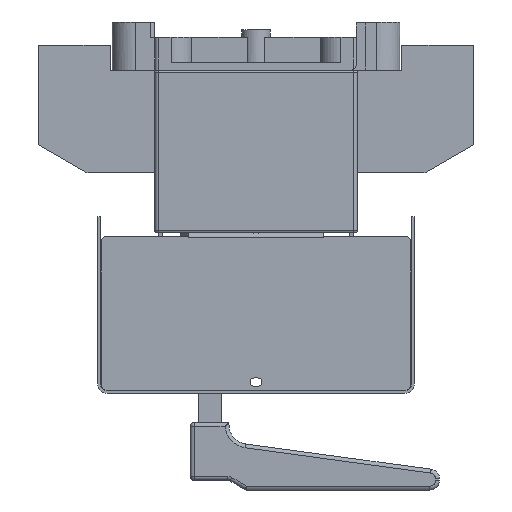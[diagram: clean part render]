
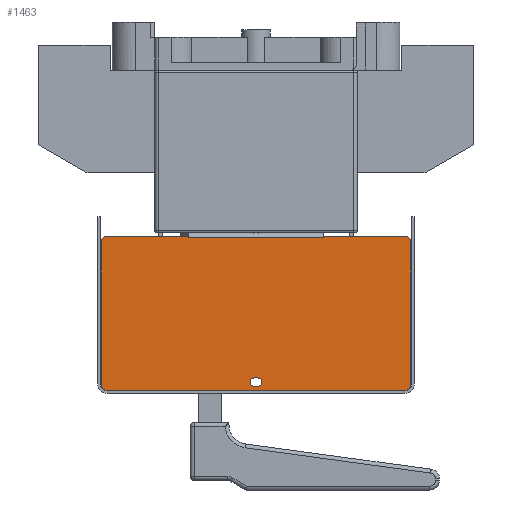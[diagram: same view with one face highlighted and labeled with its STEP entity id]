
A CAD part, left-side view. The second image highlights one B-rep face of the part: STEP entity #1463.
In plain terms, the highlighted planar face has unit normal (-1, 0, 0).
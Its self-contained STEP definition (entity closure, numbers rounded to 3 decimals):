
#662=FACE_BOUND('',#5008,.T.);
#663=FACE_BOUND('',#5009,.T.);
#1463=ADVANCED_FACE('',(#662,#663),#2595,.T.);
#2595=PLANE('',#26377);
#5008=EDGE_LOOP('',(#10214,#10215,#10216,#10217));
#5009=EDGE_LOOP('',(#10218,#10219,#10220,#10221,#10222,#10223,#10224,#10225,
#10226,#10227,#10228,#10229,#10230,#10231));
#6257=CIRCLE('',#26371,2.1);
#6258=CIRCLE('',#26372,2.1);
#6259=CIRCLE('',#26373,3.);
#6260=CIRCLE('',#26374,3.);
#6261=CIRCLE('',#26375,3.);
#6262=CIRCLE('',#26376,3.);
#10214=ORIENTED_EDGE('',*,*,#18092,.T.);
#10215=ORIENTED_EDGE('',*,*,#18093,.T.);
#10216=ORIENTED_EDGE('',*,*,#18094,.T.);
#10217=ORIENTED_EDGE('',*,*,#18095,.T.);
#10218=ORIENTED_EDGE('',*,*,#18071,.F.);
#10219=ORIENTED_EDGE('',*,*,#18069,.T.);
#10220=ORIENTED_EDGE('',*,*,#18056,.T.);
#10221=ORIENTED_EDGE('',*,*,#18073,.T.);
#10222=ORIENTED_EDGE('',*,*,#18076,.F.);
#10223=ORIENTED_EDGE('',*,*,#18096,.T.);
#10224=ORIENTED_EDGE('',*,*,#18097,.T.);
#10225=ORIENTED_EDGE('',*,*,#18098,.T.);
#10226=ORIENTED_EDGE('',*,*,#18099,.T.);
#10227=ORIENTED_EDGE('',*,*,#18100,.T.);
#10228=ORIENTED_EDGE('',*,*,#18101,.T.);
#10229=ORIENTED_EDGE('',*,*,#18102,.T.);
#10230=ORIENTED_EDGE('',*,*,#18103,.T.);
#10231=ORIENTED_EDGE('',*,*,#18104,.T.);
#15115=VERTEX_POINT('',#38458);
#15116=VERTEX_POINT('',#38460);
#15121=VERTEX_POINT('',#38481);
#15124=VERTEX_POINT('',#38489);
#15125=VERTEX_POINT('',#38493);
#15127=VERTEX_POINT('',#38499);
#15141=VERTEX_POINT('',#38531);
#15142=VERTEX_POINT('',#38532);
#15143=VERTEX_POINT('',#38534);
#15144=VERTEX_POINT('',#38536);
#15145=VERTEX_POINT('',#38539);
#15146=VERTEX_POINT('',#38541);
#15147=VERTEX_POINT('',#38543);
#15148=VERTEX_POINT('',#38545);
#15149=VERTEX_POINT('',#38547);
#15150=VERTEX_POINT('',#38549);
#15151=VERTEX_POINT('',#38551);
#15152=VERTEX_POINT('',#38553);
#18056=EDGE_CURVE('',#15116,#15115,#21238,.T.);
#18069=EDGE_CURVE('',#15121,#15116,#21248,.T.);
#18071=EDGE_CURVE('',#15121,#15124,#21250,.T.);
#18073=EDGE_CURVE('',#15115,#15125,#21252,.T.);
#18076=EDGE_CURVE('',#15127,#15125,#21255,.T.);
#18092=EDGE_CURVE('',#15141,#15142,#6257,.T.);
#18093=EDGE_CURVE('',#15142,#15143,#21265,.T.);
#18094=EDGE_CURVE('',#15143,#15144,#6258,.T.);
#18095=EDGE_CURVE('',#15144,#15141,#21266,.T.);
#18096=EDGE_CURVE('',#15127,#15145,#21267,.T.);
#18097=EDGE_CURVE('',#15145,#15146,#6259,.T.);
#18098=EDGE_CURVE('',#15146,#15147,#21268,.T.);
#18099=EDGE_CURVE('',#15147,#15148,#6260,.T.);
#18100=EDGE_CURVE('',#15148,#15149,#21269,.T.);
#18101=EDGE_CURVE('',#15149,#15150,#6261,.T.);
#18102=EDGE_CURVE('',#15150,#15151,#21270,.T.);
#18103=EDGE_CURVE('',#15151,#15152,#6262,.T.);
#18104=EDGE_CURVE('',#15152,#15124,#21271,.T.);
#21238=LINE('',#38459,#23952);
#21248=LINE('',#38484,#23962);
#21250=LINE('',#38488,#23964);
#21252=LINE('',#38492,#23966);
#21255=LINE('',#38498,#23969);
#21265=LINE('',#38533,#23979);
#21266=LINE('',#38537,#23980);
#21267=LINE('',#38538,#23981);
#21268=LINE('',#38542,#23982);
#21269=LINE('',#38546,#23983);
#21270=LINE('',#38550,#23984);
#21271=LINE('',#38554,#23985);
#23952=VECTOR('',#30956,1.);
#23962=VECTOR('',#30982,1.);
#23964=VECTOR('',#30986,1.);
#23966=VECTOR('',#30990,1.);
#23969=VECTOR('',#30995,1.);
#23979=VECTOR('',#31023,1.);
#23980=VECTOR('',#31026,1.);
#23981=VECTOR('',#31027,1.);
#23982=VECTOR('',#31030,1.);
#23983=VECTOR('',#31033,1.);
#23984=VECTOR('',#31036,1.);
#23985=VECTOR('',#31039,1.);
#26371=AXIS2_PLACEMENT_3D('',#38530,#31021,#31022);
#26372=AXIS2_PLACEMENT_3D('',#38535,#31024,#31025);
#26373=AXIS2_PLACEMENT_3D('',#38540,#31028,#31029);
#26374=AXIS2_PLACEMENT_3D('',#38544,#31031,#31032);
#26375=AXIS2_PLACEMENT_3D('',#38548,#31034,#31035);
#26376=AXIS2_PLACEMENT_3D('',#38552,#31037,#31038);
#26377=AXIS2_PLACEMENT_3D('',#38555,#31040,#31041);
#30956=DIRECTION('',(0.,1.,0.));
#30982=DIRECTION('',(0.,1.,0.));
#30986=DIRECTION('',(0.,0.,1.));
#30990=DIRECTION('',(0.,1.,0.));
#30995=DIRECTION('',(0.,0.,-1.));
#31021=DIRECTION('',(1.,0.,0.));
#31022=DIRECTION('',(0.,1.,0.));
#31023=DIRECTION('',(0.,-1.,0.));
#31024=DIRECTION('',(1.,0.,0.));
#31025=DIRECTION('',(0.,1.,0.));
#31026=DIRECTION('',(0.,1.,0.));
#31027=DIRECTION('',(0.,1.,0.));
#31028=DIRECTION('',(-1.,0.,0.));
#31029=DIRECTION('',(0.,1.,0.));
#31030=DIRECTION('',(0.,0.,-1.));
#31031=DIRECTION('',(-1.,0.,0.));
#31032=DIRECTION('',(0.,1.,0.));
#31033=DIRECTION('',(0.,-1.,0.));
#31034=DIRECTION('',(-1.,0.,0.));
#31035=DIRECTION('',(0.,1.,0.));
#31036=DIRECTION('',(0.,0.,1.));
#31037=DIRECTION('',(-1.,0.,0.));
#31038=DIRECTION('',(0.,1.,0.));
#31039=DIRECTION('',(0.,1.,0.));
#31040=DIRECTION('',(-1.,0.,0.));
#31041=DIRECTION('',(0.,-1.,0.));
#38458=CARTESIAN_POINT('',(-189.3,35.,-86.8));
#38459=CARTESIAN_POINT('',(-189.3,50.5,-86.8));
#38460=CARTESIAN_POINT('',(-189.3,-35.,-86.8));
#38481=CARTESIAN_POINT('',(-189.3,-35.002,-86.8));
#38484=CARTESIAN_POINT('',(-189.3,77.,-86.8));
#38488=CARTESIAN_POINT('',(-189.3,-35.002,-162.8));
#38489=CARTESIAN_POINT('',(-189.3,-35.002,-85.8));
#38492=CARTESIAN_POINT('',(-189.3,77.,-86.8));
#38493=CARTESIAN_POINT('',(-189.3,35.002,-86.8));
#38498=CARTESIAN_POINT('',(-189.3,35.002,-162.8));
#38499=CARTESIAN_POINT('',(-189.3,35.002,-85.8));
#38530=CARTESIAN_POINT('',(-189.3,1.,-161.4));
#38531=CARTESIAN_POINT('',(-189.3,1.,-163.5));
#38532=CARTESIAN_POINT('',(-189.3,1.,-159.3));
#38533=CARTESIAN_POINT('',(-189.3,1.,-159.3));
#38534=CARTESIAN_POINT('',(-189.3,-1.,-159.3));
#38535=CARTESIAN_POINT('',(-189.3,-1.,-161.4));
#38536=CARTESIAN_POINT('',(-189.3,-1.,-163.5));
#38537=CARTESIAN_POINT('',(-189.3,-1.,-163.5));
#38538=CARTESIAN_POINT('',(-189.3,-77.,-85.8));
#38539=CARTESIAN_POINT('',(-189.3,77.,-85.8));
#38540=CARTESIAN_POINT('',(-189.3,77.,-88.8));
#38541=CARTESIAN_POINT('',(-189.3,80.,-88.8));
#38542=CARTESIAN_POINT('',(-189.3,80.,-88.8));
#38543=CARTESIAN_POINT('',(-189.3,80.,-162.8));
#38544=CARTESIAN_POINT('',(-189.3,77.,-162.8));
#38545=CARTESIAN_POINT('',(-189.3,77.,-165.8));
#38546=CARTESIAN_POINT('',(-189.3,77.,-165.8));
#38547=CARTESIAN_POINT('',(-189.3,-77.,-165.8));
#38548=CARTESIAN_POINT('',(-189.3,-77.,-162.8));
#38549=CARTESIAN_POINT('',(-189.3,-80.,-162.8));
#38550=CARTESIAN_POINT('',(-189.3,-80.,-162.8));
#38551=CARTESIAN_POINT('',(-189.3,-80.,-88.8));
#38552=CARTESIAN_POINT('',(-189.3,-77.,-88.8));
#38553=CARTESIAN_POINT('',(-189.3,-77.,-85.8));
#38554=CARTESIAN_POINT('',(-189.3,-77.,-85.8));
#38555=CARTESIAN_POINT('',(-189.3,77.,-162.8));
